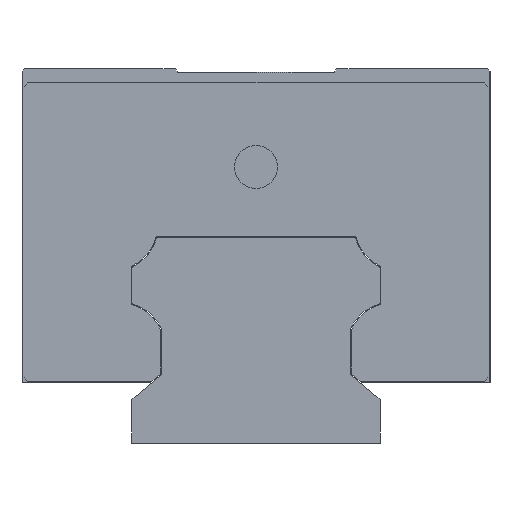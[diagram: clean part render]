
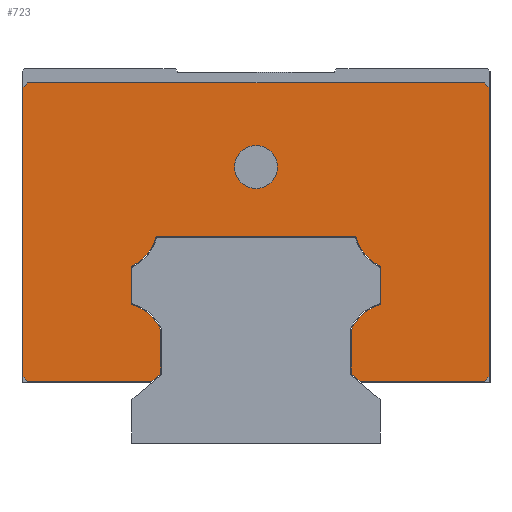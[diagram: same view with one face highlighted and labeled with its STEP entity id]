
A CAD part, left-side view. The second image highlights one B-rep face of the part: STEP entity #723.
In plain terms, the highlighted planar face has unit normal (-1, 0, 0).
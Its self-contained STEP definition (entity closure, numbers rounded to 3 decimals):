
#588=FACE_BOUND('',#989,.T.);
#589=FACE_BOUND('',#990,.T.);
#723=ADVANCED_FACE('',(#588,#589),#834,.F.);
#834=PLANE('',#2563);
#989=EDGE_LOOP('',(#1296));
#990=EDGE_LOOP('',(#1297,#1298,#1299,#1300,#1301,#1302,#1303,#1304,#1305,
#1306,#1307,#1308,#1309,#1310,#1311,#1312,#1313,#1314,#1315,#1316));
#1130=CIRCLE('',#2547,9.72);
#1131=CIRCLE('',#2550,9.72);
#1132=CIRCLE('',#2553,9.72);
#1133=CIRCLE('',#2556,9.72);
#1134=CIRCLE('',#2562,4.588);
#1296=ORIENTED_EDGE('',*,*,#1985,.F.);
#1297=ORIENTED_EDGE('',*,*,#1983,.F.);
#1298=ORIENTED_EDGE('',*,*,#1986,.T.);
#1299=ORIENTED_EDGE('',*,*,#1978,.F.);
#1300=ORIENTED_EDGE('',*,*,#1977,.F.);
#1301=ORIENTED_EDGE('',*,*,#1970,.F.);
#1302=ORIENTED_EDGE('',*,*,#1964,.F.);
#1303=ORIENTED_EDGE('',*,*,#1963,.F.);
#1304=ORIENTED_EDGE('',*,*,#1955,.F.);
#1305=ORIENTED_EDGE('',*,*,#1954,.F.);
#1306=ORIENTED_EDGE('',*,*,#1946,.F.);
#1307=ORIENTED_EDGE('',*,*,#1945,.F.);
#1308=ORIENTED_EDGE('',*,*,#1937,.F.);
#1309=ORIENTED_EDGE('',*,*,#1935,.F.);
#1310=ORIENTED_EDGE('',*,*,#1930,.F.);
#1311=ORIENTED_EDGE('',*,*,#1922,.F.);
#1312=ORIENTED_EDGE('',*,*,#1987,.T.);
#1313=ORIENTED_EDGE('',*,*,#1918,.F.);
#1314=ORIENTED_EDGE('',*,*,#1988,.T.);
#1315=ORIENTED_EDGE('',*,*,#1914,.F.);
#1316=ORIENTED_EDGE('',*,*,#1989,.T.);
#1730=VERTEX_POINT('',#3314);
#1731=VERTEX_POINT('',#3316);
#1734=VERTEX_POINT('',#3323);
#1735=VERTEX_POINT('',#3325);
#1738=VERTEX_POINT('',#3332);
#1739=VERTEX_POINT('',#3334);
#1740=VERTEX_POINT('',#3338);
#1746=VERTEX_POINT('',#3352);
#1751=VERTEX_POINT('',#3364);
#1752=VERTEX_POINT('',#3368);
#1757=VERTEX_POINT('',#3381);
#1758=VERTEX_POINT('',#3385);
#1763=VERTEX_POINT('',#3398);
#1764=VERTEX_POINT('',#3402);
#1769=VERTEX_POINT('',#3415);
#1770=VERTEX_POINT('',#3419);
#1774=VERTEX_POINT('',#3429);
#1780=VERTEX_POINT('',#3443);
#1784=VERTEX_POINT('',#3452);
#1785=VERTEX_POINT('',#3454);
#1786=VERTEX_POINT('',#3458);
#1914=EDGE_CURVE('',#1730,#1731,#2171,.T.);
#1918=EDGE_CURVE('',#1734,#1735,#2175,.T.);
#1922=EDGE_CURVE('',#1738,#1739,#2179,.T.);
#1930=EDGE_CURVE('',#1739,#1740,#2187,.T.);
#1935=EDGE_CURVE('',#1740,#1746,#2192,.T.);
#1937=EDGE_CURVE('',#1746,#1751,#1130,.T.);
#1945=EDGE_CURVE('',#1751,#1752,#2200,.T.);
#1946=EDGE_CURVE('',#1752,#1757,#1131,.T.);
#1954=EDGE_CURVE('',#1757,#1758,#2208,.T.);
#1955=EDGE_CURVE('',#1758,#1763,#1132,.T.);
#1963=EDGE_CURVE('',#1763,#1764,#2216,.T.);
#1964=EDGE_CURVE('',#1764,#1769,#1133,.T.);
#1970=EDGE_CURVE('',#1769,#1770,#2222,.T.);
#1977=EDGE_CURVE('',#1770,#1774,#2229,.T.);
#1978=EDGE_CURVE('',#1774,#1780,#2230,.T.);
#1983=EDGE_CURVE('',#1784,#1785,#2235,.T.);
#1985=EDGE_CURVE('',#1786,#1786,#1134,.T.);
#1986=EDGE_CURVE('',#1784,#1780,#2237,.T.);
#1987=EDGE_CURVE('',#1738,#1735,#2238,.T.);
#1988=EDGE_CURVE('',#1734,#1731,#2239,.T.);
#1989=EDGE_CURVE('',#1730,#1785,#2240,.T.);
#2171=LINE('',#3315,#2355);
#2175=LINE('',#3324,#2359);
#2179=LINE('',#3333,#2363);
#2187=LINE('',#3349,#2371);
#2192=LINE('',#3359,#2376);
#2200=LINE('',#3378,#2384);
#2208=LINE('',#3395,#2392);
#2216=LINE('',#3412,#2400);
#2222=LINE('',#3426,#2406);
#2229=LINE('',#3440,#2413);
#2230=LINE('',#3442,#2414);
#2235=LINE('',#3453,#2419);
#2237=LINE('',#3459,#2421);
#2238=LINE('',#3460,#2422);
#2239=LINE('',#3461,#2423);
#2240=LINE('',#3462,#2424);
#2355=VECTOR('',#2745,1.);
#2359=VECTOR('',#2751,1.);
#2363=VECTOR('',#2757,1.);
#2371=VECTOR('',#2767,1.);
#2376=VECTOR('',#2774,1.);
#2384=VECTOR('',#2790,1.);
#2392=VECTOR('',#2804,1.);
#2400=VECTOR('',#2818,1.);
#2406=VECTOR('',#2830,1.);
#2413=VECTOR('',#2839,1.);
#2414=VECTOR('',#2842,1.);
#2419=VECTOR('',#2849,1.);
#2421=VECTOR('',#2855,1.);
#2422=VECTOR('',#2856,1.);
#2423=VECTOR('',#2857,1.);
#2424=VECTOR('',#2858,1.);
#2547=AXIS2_PLACEMENT_3D('',#3363,#2779,#2780);
#2550=AXIS2_PLACEMENT_3D('',#3380,#2793,#2794);
#2553=AXIS2_PLACEMENT_3D('',#3397,#2807,#2808);
#2556=AXIS2_PLACEMENT_3D('',#3414,#2821,#2822);
#2562=AXIS2_PLACEMENT_3D('',#3457,#2853,#2854);
#2563=AXIS2_PLACEMENT_3D('',#3463,#2859,#2860);
#2745=DIRECTION('',(0.,-1.,0.));
#2751=DIRECTION('',(0.,0.,-1.));
#2757=DIRECTION('',(0.,1.,0.));
#2767=DIRECTION('',(0.,0.766,0.643));
#2774=DIRECTION('',(0.,0.,1.));
#2779=DIRECTION('',(1.,0.,0.));
#2780=DIRECTION('',(0.,1.,0.));
#2790=DIRECTION('',(0.,0.,1.));
#2793=DIRECTION('',(1.,0.,0.));
#2794=DIRECTION('',(0.,1.,0.));
#2804=DIRECTION('',(0.,1.,0.));
#2807=DIRECTION('',(1.,0.,0.));
#2808=DIRECTION('',(0.,-1.,0.));
#2818=DIRECTION('',(0.,0.,-1.));
#2821=DIRECTION('',(1.,0.,0.));
#2822=DIRECTION('',(0.,-1.,0.));
#2830=DIRECTION('',(0.,0.,-1.));
#2839=DIRECTION('',(0.,0.766,-0.643));
#2842=DIRECTION('',(0.,1.,0.));
#2849=DIRECTION('',(0.,0.,1.));
#2853=DIRECTION('',(-1.,0.,0.));
#2854=DIRECTION('',(0.,1.,0.));
#2855=DIRECTION('',(0.,-0.707,-0.707));
#2856=DIRECTION('',(0.,-0.707,0.707));
#2857=DIRECTION('',(0.,0.707,0.707));
#2858=DIRECTION('',(0.,0.707,-0.707));
#2859=DIRECTION('',(1.,0.,0.));
#2860=DIRECTION('',(0.,0.,-1.));
#3314=CARTESIAN_POINT('',(-100.05,48.8,77.));
#3315=CARTESIAN_POINT('',(-100.05,49.8,77.));
#3316=CARTESIAN_POINT('',(-100.05,-48.8,77.));
#3323=CARTESIAN_POINT('',(-100.05,-49.8,76.));
#3324=CARTESIAN_POINT('',(-100.05,-49.8,77.));
#3325=CARTESIAN_POINT('',(-100.05,-49.8,14.2));
#3332=CARTESIAN_POINT('',(-100.05,-48.8,13.2));
#3333=CARTESIAN_POINT('',(-100.05,-49.8,13.2));
#3334=CARTESIAN_POINT('',(-100.05,-22.243,13.2));
#3338=CARTESIAN_POINT('',(-100.05,-20.384,14.76));
#3349=CARTESIAN_POINT('',(-100.05,-22.243,13.2));
#3352=CARTESIAN_POINT('',(-100.05,-20.384,24.351));
#3359=CARTESIAN_POINT('',(-100.05,-20.384,14.76));
#3363=CARTESIAN_POINT('',(-100.05,-29.2,20.258));
#3364=CARTESIAN_POINT('',(-100.05,-26.7,29.651));
#3368=CARTESIAN_POINT('',(-100.05,-26.7,37.757));
#3378=CARTESIAN_POINT('',(-100.05,-26.7,29.651));
#3380=CARTESIAN_POINT('',(-100.05,-30.709,46.611));
#3381=CARTESIAN_POINT('',(-100.05,-21.293,44.2));
#3385=CARTESIAN_POINT('',(-100.05,21.293,44.2));
#3395=CARTESIAN_POINT('',(-100.05,-21.293,44.2));
#3397=CARTESIAN_POINT('',(-100.05,30.709,46.611));
#3398=CARTESIAN_POINT('',(-100.05,26.7,37.757));
#3402=CARTESIAN_POINT('',(-100.05,26.7,29.651));
#3412=CARTESIAN_POINT('',(-100.05,26.7,37.757));
#3414=CARTESIAN_POINT('',(-100.05,29.2,20.258));
#3415=CARTESIAN_POINT('',(-100.05,20.384,24.351));
#3419=CARTESIAN_POINT('',(-100.05,20.384,14.76));
#3426=CARTESIAN_POINT('',(-100.05,20.384,24.351));
#3429=CARTESIAN_POINT('',(-100.05,22.243,13.2));
#3440=CARTESIAN_POINT('',(-100.05,20.384,14.76));
#3442=CARTESIAN_POINT('',(-100.05,22.243,13.2));
#3443=CARTESIAN_POINT('',(-100.05,48.8,13.2));
#3452=CARTESIAN_POINT('',(-100.05,49.8,14.2));
#3453=CARTESIAN_POINT('',(-100.05,49.8,13.2));
#3454=CARTESIAN_POINT('',(-100.05,49.8,76.));
#3457=CARTESIAN_POINT('',(-100.05,0.,59.));
#3458=CARTESIAN_POINT('',(-100.05,4.588,59.));
#3459=CARTESIAN_POINT('',(-100.05,48.8,13.2));
#3460=CARTESIAN_POINT('',(-100.05,-49.8,14.2));
#3461=CARTESIAN_POINT('',(-100.05,-48.8,77.));
#3462=CARTESIAN_POINT('',(-100.05,49.8,76.));
#3463=CARTESIAN_POINT('',(-100.05,-29.2,20.258));
